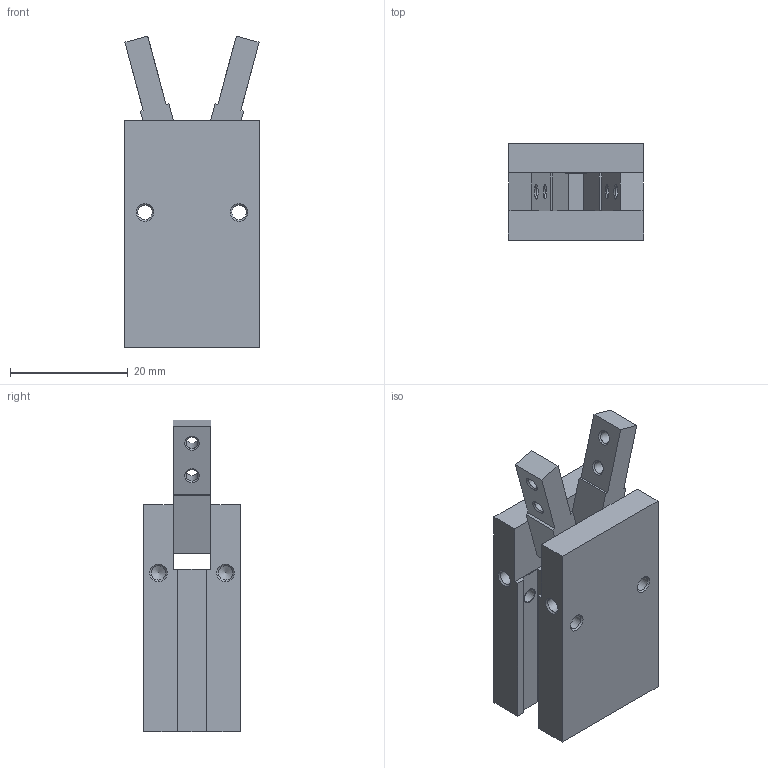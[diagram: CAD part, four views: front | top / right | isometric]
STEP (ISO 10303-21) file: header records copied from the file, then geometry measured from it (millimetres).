
FILE_DESCRIPTION(/* description */ ('STEP AP214'),/* implementation_level */ '2;1');
FILE_NAME(/* name */ 'MHC2-10S(30_0)',/* time_stamp */ '2025-09-11T08:06:29+02:00',/* author */ ('License CC BY-ND 4.0'),/* organization */ ('CADENAS'),/* preprocessor_version */ 'ST-DEVELOPER v19.3',/* originating_system */ 'PARTsolutions',/* authorisation */ ' ');
FILE_SCHEMA (('AUTOMOTIVE_DESIGN {1 0 10303 214 3 1 1}'));
Length unit declared in the file: millimetre
Products named in the file (3): MHC2-10S(30_0); MHC2-10S(0)_BODY; MHC2-10(0)_FINGER
Assembly tree (3 placements, depth 2):
  MHC2-10S(30_0)
    MHC2-10S(0)_BODY
    MHC2-10(0)_FINGER  x2
Bounding box: 23 x 16.4 x 52.93 mm (x, y, z)
Volume: 12024.3 mm3; surface area: 6455.9 mm2
Topology: 3 solids, 3 shells, 99 faces, 244 edges, 158 vertices
Faces by surface type: plane 53, cylinder 24, cone 22
Full cylindrical faces by diameter (mm): 2.013 x4, 2.459 x9, 2.5 x6, 2.6 x4, 11 x1
Entity records: 2250 total; most frequent: DIRECTION 378, CARTESIAN_POINT 361, ORIENTED_EDGE 302, EDGE_CURVE 151, FACE_BOUND 151, EDGE_LOOP 146, AXIS2_PLACEMENT_3D 141, VERTEX_POINT 124
